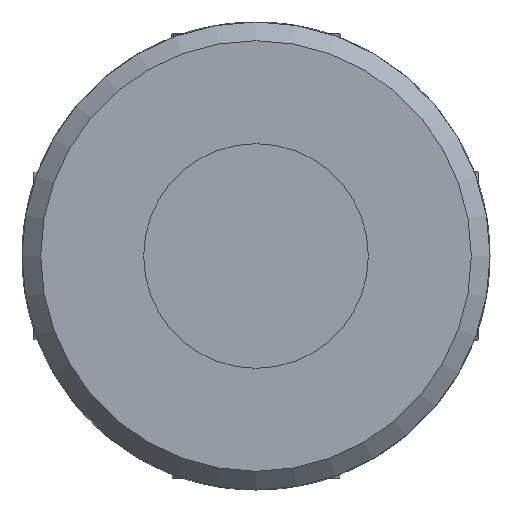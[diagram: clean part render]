
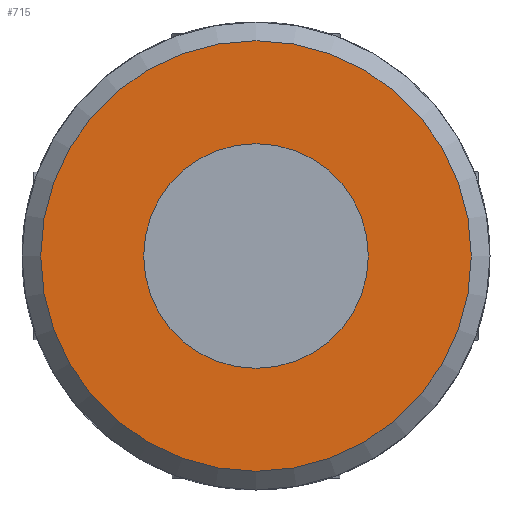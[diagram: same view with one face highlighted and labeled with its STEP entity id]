
A CAD part, front view. The second image highlights one B-rep face of the part: STEP entity #715.
In plain terms, the highlighted planar face has unit normal (0, -1, 0).
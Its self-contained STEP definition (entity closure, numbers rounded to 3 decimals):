
#131=PLANE('',#780);
#157=FACE_BOUND('',#245,.T.);
#182=FACE_OUTER_BOUND('',#244,.T.);
#244=EDGE_LOOP('',(#556));
#245=EDGE_LOOP('',(#557));
#293=CIRCLE('',#775,6.);
#295=CIRCLE('',#778,11.5);
#338=VERTEX_POINT('',#1104);
#340=VERTEX_POINT('',#1109);
#412=EDGE_CURVE('',#338,#338,#293,.T.);
#414=EDGE_CURVE('',#340,#340,#295,.T.);
#556=ORIENTED_EDGE('',*,*,#414,.F.);
#557=ORIENTED_EDGE('',*,*,#412,.T.);
#715=ADVANCED_FACE('',(#182,#157),#131,.F.);
#775=AXIS2_PLACEMENT_3D('',#1105,#905,#906);
#778=AXIS2_PLACEMENT_3D('',#1110,#911,#912);
#780=AXIS2_PLACEMENT_3D('',#1326,#919,#920);
#905=DIRECTION('center_axis',(0.,1.,0.));
#906=DIRECTION('ref_axis',(-1.,0.,0.));
#911=DIRECTION('center_axis',(0.,1.,0.));
#912=DIRECTION('ref_axis',(1.,0.,0.));
#919=DIRECTION('center_axis',(0.,1.,0.));
#920=DIRECTION('ref_axis',(0.,0.,1.));
#1104=CARTESIAN_POINT('',(6.,-34.5,0.));
#1105=CARTESIAN_POINT('Origin',(0.,-34.5,0.));
#1109=CARTESIAN_POINT('',(-11.5,-34.5,0.));
#1110=CARTESIAN_POINT('Origin',(0.,-34.5,0.));
#1326=CARTESIAN_POINT('Origin',(0.,-34.5,0.));
